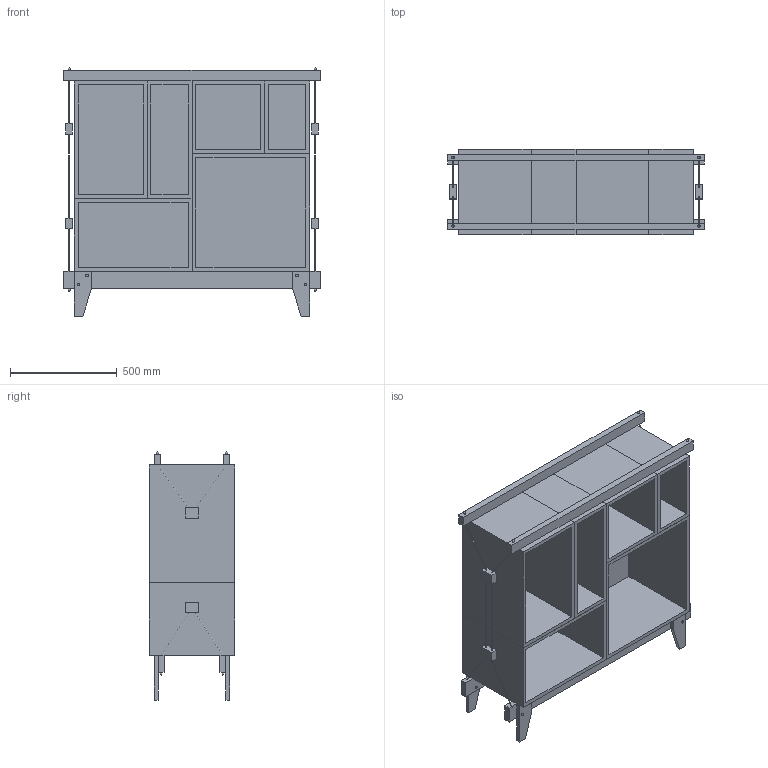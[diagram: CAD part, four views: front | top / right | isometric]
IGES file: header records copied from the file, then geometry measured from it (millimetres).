
Start section: Data from Parasolid IGES Translator 17.0.49, Copyright(c) 2006 Siemens P LM Software. All Rights Reserved.
Global section: file name: Saam A.igs; native system: By Siemens PLM Incorporated; preprocessor: XPlus GENERIC/IGES 17.0.49; author: Noname; organization: Noname; date: 20170605.063319; units: metre
Bounding box: 1200 x 400 x 1162 mm (x, y, z)
Volume: 92049602.6 mm3; surface area: 10359504.7 mm2
Topology: 34 solids, 34 shells, 218 faces, 428 edges, 284 vertices
Faces by surface type: plane 182, cylinder 28, sphere 8
Full cylindrical faces by diameter (mm): 3 x12, 12 x16
